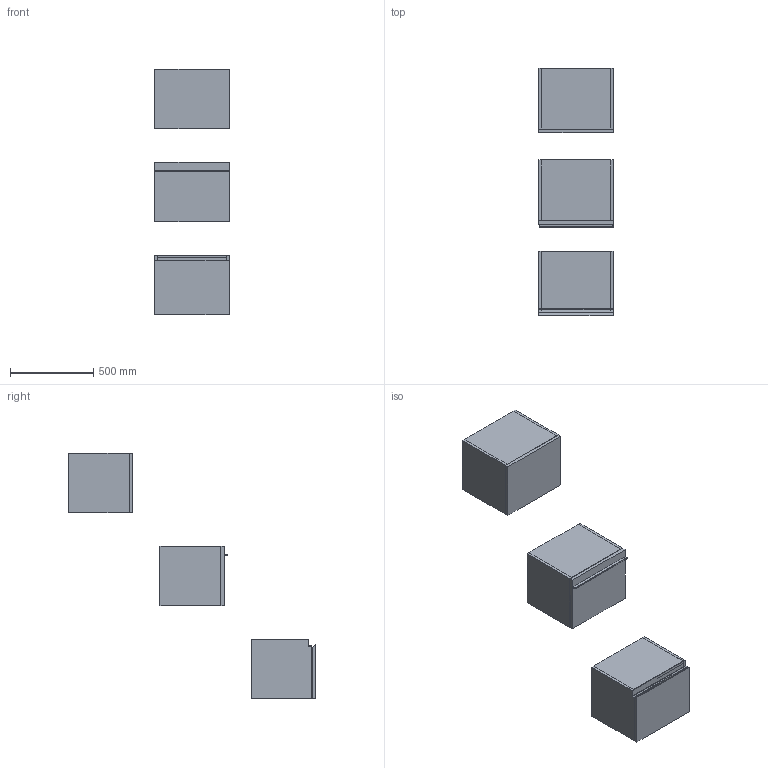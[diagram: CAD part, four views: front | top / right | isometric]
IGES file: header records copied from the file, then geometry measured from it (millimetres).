
Start section: Data from Parasolid IGES Translator 19.0.9, Copyright(c) 2006 Siemens PL M Software. All Rights Reserved.
Global section: file name: noorth-SI-H 36 D 38,8 W 45_8332.igs; native system: By Siemens PLM Incorporated; preprocessor: XPlus GENERIC/IGES 19.0.9; author: Noname; organization: Noname; date: 20200530.132830; units: metre
Bounding box: 451.02 x 1485.1 x 1480 mm (x, y, z)
Volume: 37206495.3 mm3; surface area: 5612541.7 mm2
Topology: 20 solids, 20 shells, 178 faces, 382 edges, 234 vertices
Faces by surface type: plane 134, extrusion 16, bspline 16, cylinder 12
